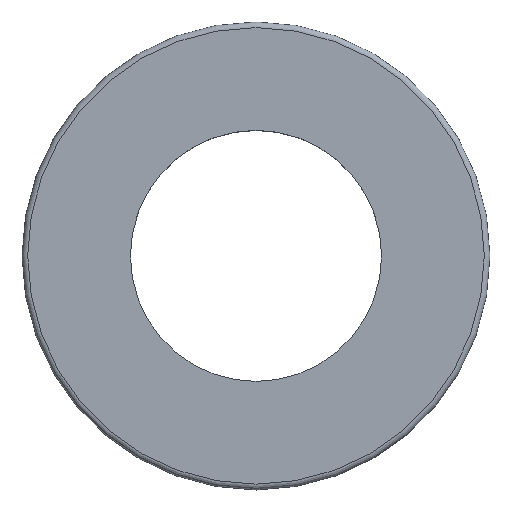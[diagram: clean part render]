
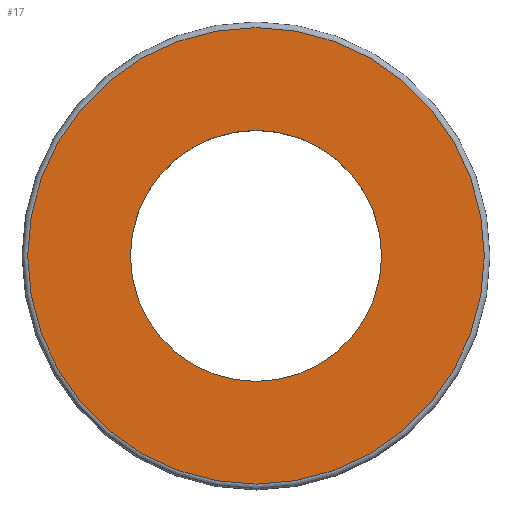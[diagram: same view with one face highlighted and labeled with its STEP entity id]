
A CAD part, top view. The second image highlights one B-rep face of the part: STEP entity #17.
In plain terms, the highlighted planar face has unit normal (0, 0, 1).
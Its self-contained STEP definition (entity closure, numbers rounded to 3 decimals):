
#17 = ADVANCED_FACE('',(#18,#58),#31,.T.);
#18 = FACE_BOUND('',#19,.T.);
#19 = EDGE_LOOP('',(#20));
#20 = ORIENTED_EDGE('',*,*,#21,.T.);
#21 = EDGE_CURVE('',#22,#22,#24,.T.);
#22 = VERTEX_POINT('',#23);
#23 = CARTESIAN_POINT('',(-20.,0.,7.));
#24 = SURFACE_CURVE('',#25,(#30,#42),.PCURVE_S1.);
#25 = CIRCLE('',#26,20.);
#26 = AXIS2_PLACEMENT_3D('',#27,#28,#29);
#27 = CARTESIAN_POINT('',(0.,0.,7.));
#28 = DIRECTION('',(0.,0.,1.));
#29 = DIRECTION('',(-1.,0.,0.));
#30 = PCURVE('',#31,#36);
#31 = PLANE('',#32);
#32 = AXIS2_PLACEMENT_3D('',#33,#34,#35);
#33 = CARTESIAN_POINT('',(0.,0.,7.));
#34 = DIRECTION('',(0.,0.,1.));
#35 = DIRECTION('',(-1.,0.,0.));
#36 = DEFINITIONAL_REPRESENTATION('',(#37),#41);
#37 = CIRCLE('',#38,20.);
#38 = AXIS2_PLACEMENT_2D('',#39,#40);
#39 = CARTESIAN_POINT('',(0.,0.));
#40 = DIRECTION('',(1.,0.));
#41 = ( GEOMETRIC_REPRESENTATION_CONTEXT(2) 
PARAMETRIC_REPRESENTATION_CONTEXT() REPRESENTATION_CONTEXT('2D SPACE',''
  ) );
#42 = PCURVE('',#43,#52);
#43 = SURFACE_OF_REVOLUTION('',#44,#49);
#44 = CIRCLE('',#45,0.5);
#45 = AXIS2_PLACEMENT_3D('',#46,#47,#48);
#46 = CARTESIAN_POINT('',(-20.,0.,6.5));
#47 = DIRECTION('',(0.,-1.,0.));
#48 = DIRECTION('',(1.,0.,0.));
#49 = AXIS1_PLACEMENT('',#50,#51);
#50 = CARTESIAN_POINT('',(0.,0.,-0.));
#51 = DIRECTION('',(0.,0.,1.));
#52 = DEFINITIONAL_REPRESENTATION('',(#53),#57);
#53 = LINE('',#54,#55);
#54 = CARTESIAN_POINT('',(0.,1.571));
#55 = VECTOR('',#56,1.);
#56 = DIRECTION('',(1.,0.));
#57 = ( GEOMETRIC_REPRESENTATION_CONTEXT(2) 
PARAMETRIC_REPRESENTATION_CONTEXT() REPRESENTATION_CONTEXT('2D SPACE',''
  ) );
#58 = FACE_BOUND('',#59,.T.);
#59 = EDGE_LOOP('',(#60));
#60 = ORIENTED_EDGE('',*,*,#61,.F.);
#61 = EDGE_CURVE('',#62,#62,#64,.T.);
#62 = VERTEX_POINT('',#63);
#63 = CARTESIAN_POINT('',(-11.,0.,7.));
#64 = SURFACE_CURVE('',#65,(#70,#77),.PCURVE_S1.);
#65 = CIRCLE('',#66,11.);
#66 = AXIS2_PLACEMENT_3D('',#67,#68,#69);
#67 = CARTESIAN_POINT('',(0.,0.,7.));
#68 = DIRECTION('',(0.,0.,1.));
#69 = DIRECTION('',(-1.,0.,0.));
#70 = PCURVE('',#31,#71);
#71 = DEFINITIONAL_REPRESENTATION('',(#72),#76);
#72 = CIRCLE('',#73,11.);
#73 = AXIS2_PLACEMENT_2D('',#74,#75);
#74 = CARTESIAN_POINT('',(0.,0.));
#75 = DIRECTION('',(1.,0.));
#76 = ( GEOMETRIC_REPRESENTATION_CONTEXT(2) 
PARAMETRIC_REPRESENTATION_CONTEXT() REPRESENTATION_CONTEXT('2D SPACE',''
  ) );
#77 = PCURVE('',#78,#83);
#78 = CYLINDRICAL_SURFACE('',#79,11.);
#79 = AXIS2_PLACEMENT_3D('',#80,#81,#82);
#80 = CARTESIAN_POINT('',(0.,0.,7.));
#81 = DIRECTION('',(0.,0.,-1.));
#82 = DIRECTION('',(-1.,0.,0.));
#83 = DEFINITIONAL_REPRESENTATION('',(#84),#88);
#84 = LINE('',#85,#86);
#85 = CARTESIAN_POINT('',(-0.,0.));
#86 = VECTOR('',#87,1.);
#87 = DIRECTION('',(-1.,0.));
#88 = ( GEOMETRIC_REPRESENTATION_CONTEXT(2) 
PARAMETRIC_REPRESENTATION_CONTEXT() REPRESENTATION_CONTEXT('2D SPACE',''
  ) );
